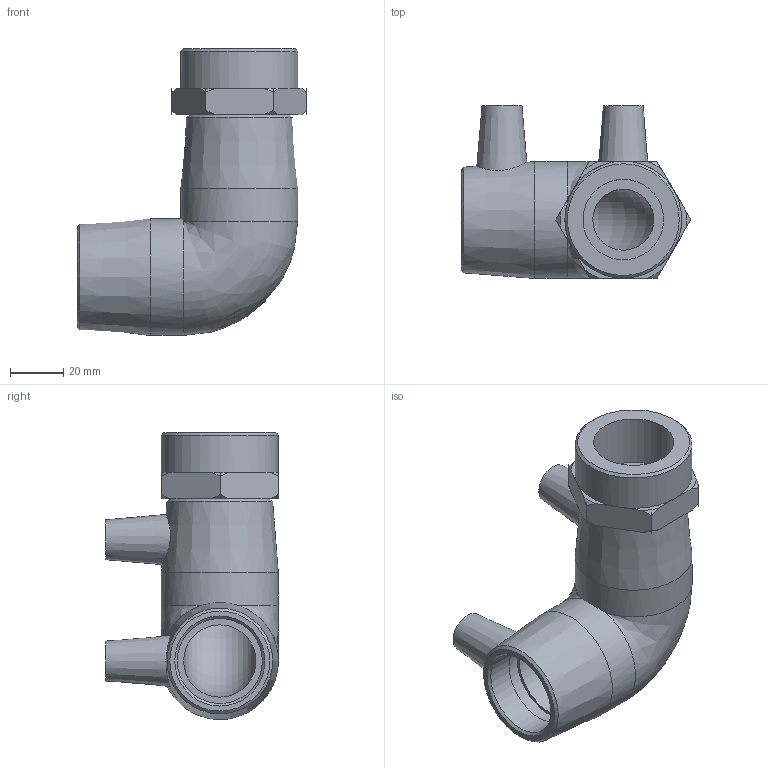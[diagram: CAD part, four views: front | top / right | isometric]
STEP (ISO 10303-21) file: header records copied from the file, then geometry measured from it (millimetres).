
FILE_DESCRIPTION(/* description */ ('PLASSON 90° ELBOW FEMALE TRANSITION 32-1'''''),/* implementation_level */ '2;1');
FILE_NAME(/* name */ 'C:\Dropbox\KIMPROJECTS-Inventor\99-16-3568-Processing\ElectroFusion Fittings\02.02.20\493504\493504032010.ipt.stp',/* time_stamp */ '2020-02-02T12:34:19+02:00',/* author */ ('KIM'),/* organization */ (''),/* preprocessor_version */ 'ST-DEVELOPER v15.6',/* originating_system */ 'Autodesk Inventor 2015',/* authorisation */ '');
FILE_SCHEMA (('AUTOMOTIVE_DESIGN { 1 0 10303 214 3 1 1 }'));
Length unit declared in the file: millimetre
Products named in the file (1): 493504032010
Bounding box: 86.4 x 65.06 x 108 mm (x, y, z)
Volume: 127471.2 mm3; surface area: 38700 mm2
Topology: 1 solids, 2 shells, 76 faces, 206 edges, 141 vertices
Faces by surface type: plane 27, cylinder 25, cone 22, bspline 1, torus 1
Full cylindrical faces by diameter (mm): 4 x2, 10 x2, 23 x1, 30.291 x1, 32 x4, 44 x3
Entity records: 2375 total; most frequent: CARTESIAN_POINT 512, DIRECTION 384, ORIENTED_EDGE 332, AXIS2_PLACEMENT_3D 168, EDGE_CURVE 166, VERTEX_POINT 129, EDGE_LOOP 115, CIRCLE 91
